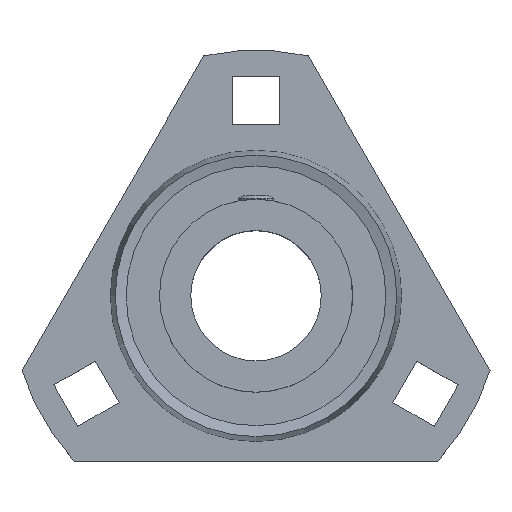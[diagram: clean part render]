
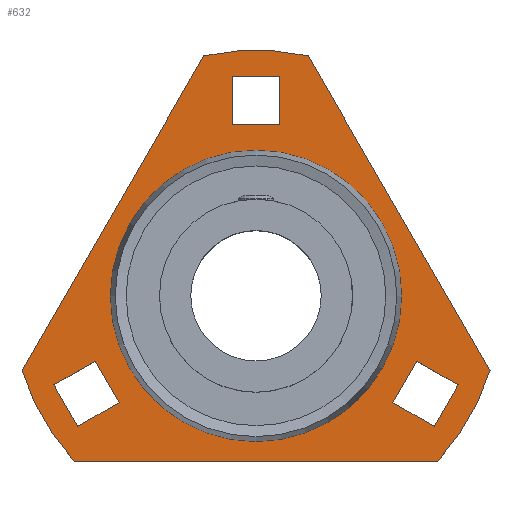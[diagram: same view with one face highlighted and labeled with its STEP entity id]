
A CAD part, top view. The second image highlights one B-rep face of the part: STEP entity #632.
In plain terms, the highlighted planar face has unit normal (0, 0, 1).
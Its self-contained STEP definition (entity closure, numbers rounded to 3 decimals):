
#122=CARTESIAN_POINT('',(-53.815,-17.21,2.6));
#123=VERTEX_POINT('',#122);
#130=CARTESIAN_POINT('',(-12.003,55.21,2.6));
#131=VERTEX_POINT('',#130);
#132=CARTESIAN_POINT('',(-53.815,-17.21,2.6));
#133=DIRECTION('',(0.5,0.866,0.0));
#134=VECTOR('',#133,83.624);
#135=LINE('',#132,#134);
#136=EDGE_CURVE('',#123,#131,#135,.T.);
#162=CARTESIAN_POINT('',(12.003,55.21,2.6));
#163=VERTEX_POINT('',#162);
#170=CARTESIAN_POINT('',(53.815,-17.21,2.6));
#171=VERTEX_POINT('',#170);
#172=CARTESIAN_POINT('',(12.003,55.21,2.6));
#173=DIRECTION('',(0.5,-0.866,0.0));
#174=VECTOR('',#173,83.624);
#175=LINE('',#172,#174);
#176=EDGE_CURVE('',#163,#171,#175,.T.);
#202=CARTESIAN_POINT('',(41.812,-38.0,2.6));
#203=VERTEX_POINT('',#202);
#210=CARTESIAN_POINT('',(-41.812,-38.0,2.6));
#211=VERTEX_POINT('',#210);
#212=CARTESIAN_POINT('',(41.812,-38.0,2.6));
#213=DIRECTION('',(-1.0,0.0,0.0));
#214=VECTOR('',#213,83.624);
#215=LINE('',#212,#214);
#216=EDGE_CURVE('',#203,#211,#215,.T.);
#378=CARTESIAN_POINT('',(0.0,0.0,2.6));
#379=DIRECTION('',(0.0,0.0,-1.0));
#380=DIRECTION('',(-1.0,0.0,0.0));
#381=AXIS2_PLACEMENT_3D('',#378,#379,#380);
#382=CIRCLE('',#381,56.5);
#383=EDGE_CURVE('',#211,#123,#382,.T.);
#396=CARTESIAN_POINT('',(0.0,0.0,2.6));
#397=DIRECTION('',(0.0,0.0,-1.0));
#398=DIRECTION('',(-1.0,0.0,0.0));
#399=AXIS2_PLACEMENT_3D('',#396,#397,#398);
#400=CIRCLE('',#399,56.5);
#401=EDGE_CURVE('',#171,#203,#400,.T.);
#493=CARTESIAN_POINT('',(0.0,33.5,2.6));
#494=VERTEX_POINT('',#493);
#495=CARTESIAN_POINT('',(0.0,0.0,2.6));
#496=DIRECTION('',(0.0,0.0,-1.0));
#497=DIRECTION('',(0.0,1.0,0.0));
#498=AXIS2_PLACEMENT_3D('',#495,#496,#497);
#499=CIRCLE('',#498,33.5);
#500=EDGE_CURVE('',#494,#494,#499,.T.);
#508=CARTESIAN_POINT('',(0.0,0.0,2.6));
#509=DIRECTION('',(0.0,0.0,-1.0));
#510=DIRECTION('',(-1.0,0.0,0.0));
#511=AXIS2_PLACEMENT_3D('',#508,#509,#510);
#512=PLANE('',#511);
#513=ORIENTED_EDGE('',*,*,#176,.F.);
#514=CARTESIAN_POINT('',(0.0,0.0,2.6));
#515=DIRECTION('',(0.0,0.0,-1.0));
#516=DIRECTION('',(-1.0,0.0,0.0));
#517=AXIS2_PLACEMENT_3D('',#514,#515,#516);
#518=CIRCLE('',#517,56.5);
#519=EDGE_CURVE('',#131,#163,#518,.T.);
#520=ORIENTED_EDGE('',*,*,#519,.F.);
#521=ORIENTED_EDGE('',*,*,#136,.F.);
#522=ORIENTED_EDGE('',*,*,#383,.F.);
#523=ORIENTED_EDGE('',*,*,#216,.F.);
#524=ORIENTED_EDGE('',*,*,#401,.F.);
#525=EDGE_LOOP('',(#513,#520,#521,#522,#523,#524));
#526=FACE_OUTER_BOUND('',#525,.T.);
#527=CARTESIAN_POINT('',(5.5,50.5,2.6));
#528=VERTEX_POINT('',#527);
#529=CARTESIAN_POINT('',(5.5,39.5,2.6));
#530=VERTEX_POINT('',#529);
#531=CARTESIAN_POINT('',(5.5,50.5,2.6));
#532=DIRECTION('',(0.0,-1.0,0.0));
#533=VECTOR('',#532,11.);
#534=LINE('',#531,#533);
#535=EDGE_CURVE('',#528,#530,#534,.T.);
#536=ORIENTED_EDGE('',*,*,#535,.T.);
#537=CARTESIAN_POINT('',(-5.5,39.5,2.6));
#538=VERTEX_POINT('',#537);
#539=CARTESIAN_POINT('',(5.5,39.5,2.6));
#540=DIRECTION('',(-1.0,0.0,0.0));
#541=VECTOR('',#540,11.0);
#542=LINE('',#539,#541);
#543=EDGE_CURVE('',#530,#538,#542,.T.);
#544=ORIENTED_EDGE('',*,*,#543,.T.);
#545=CARTESIAN_POINT('',(-5.5,50.5,2.6));
#546=VERTEX_POINT('',#545);
#547=CARTESIAN_POINT('',(-5.5,39.5,2.6));
#548=DIRECTION('',(0.0,1.0,0.0));
#549=VECTOR('',#548,11.);
#550=LINE('',#547,#549);
#551=EDGE_CURVE('',#538,#546,#550,.T.);
#552=ORIENTED_EDGE('',*,*,#551,.T.);
#553=CARTESIAN_POINT('',(-5.5,50.5,2.6));
#554=DIRECTION('',(1.0,0.0,0.0));
#555=VECTOR('',#554,11.0);
#556=LINE('',#553,#555);
#557=EDGE_CURVE('',#546,#528,#556,.T.);
#558=ORIENTED_EDGE('',*,*,#557,.T.);
#559=EDGE_LOOP('',(#536,#544,#552,#558));
#560=FACE_BOUND('',#559,.T.);
#561=CARTESIAN_POINT('',(-46.484,-20.487,2.6));
#562=VERTEX_POINT('',#561);
#563=CARTESIAN_POINT('',(-36.958,-14.987,2.6));
#564=VERTEX_POINT('',#563);
#565=CARTESIAN_POINT('',(-46.484,-20.487,2.6));
#566=DIRECTION('',(0.866,0.5,0.0));
#567=VECTOR('',#566,11.);
#568=LINE('',#565,#567);
#569=EDGE_CURVE('',#562,#564,#568,.T.);
#570=ORIENTED_EDGE('',*,*,#569,.T.);
#571=CARTESIAN_POINT('',(-31.458,-24.513,2.6));
#572=VERTEX_POINT('',#571);
#573=CARTESIAN_POINT('',(-36.958,-14.987,2.6));
#574=DIRECTION('',(0.5,-0.866,0.0));
#575=VECTOR('',#574,11.);
#576=LINE('',#573,#575);
#577=EDGE_CURVE('',#564,#572,#576,.T.);
#578=ORIENTED_EDGE('',*,*,#577,.T.);
#579=CARTESIAN_POINT('',(-40.984,-30.013,2.6));
#580=VERTEX_POINT('',#579);
#581=CARTESIAN_POINT('',(-31.458,-24.513,2.6));
#582=DIRECTION('',(-0.866,-0.5,0.0));
#583=VECTOR('',#582,11.);
#584=LINE('',#581,#583);
#585=EDGE_CURVE('',#572,#580,#584,.T.);
#586=ORIENTED_EDGE('',*,*,#585,.T.);
#587=CARTESIAN_POINT('',(-40.984,-30.013,2.6));
#588=DIRECTION('',(-0.5,0.866,0.0));
#589=VECTOR('',#588,11.);
#590=LINE('',#587,#589);
#591=EDGE_CURVE('',#580,#562,#590,.T.);
#592=ORIENTED_EDGE('',*,*,#591,.T.);
#593=EDGE_LOOP('',(#570,#578,#586,#592));
#594=FACE_BOUND('',#593,.T.);
#595=CARTESIAN_POINT('',(40.984,-30.013,2.6));
#596=VERTEX_POINT('',#595);
#597=CARTESIAN_POINT('',(31.458,-24.513,2.6));
#598=VERTEX_POINT('',#597);
#599=CARTESIAN_POINT('',(40.984,-30.013,2.6));
#600=DIRECTION('',(-0.866,0.5,0.0));
#601=VECTOR('',#600,11.);
#602=LINE('',#599,#601);
#603=EDGE_CURVE('',#596,#598,#602,.T.);
#604=ORIENTED_EDGE('',*,*,#603,.T.);
#605=CARTESIAN_POINT('',(36.958,-14.987,2.6));
#606=VERTEX_POINT('',#605);
#607=CARTESIAN_POINT('',(31.458,-24.513,2.6));
#608=DIRECTION('',(0.5,0.866,0.0));
#609=VECTOR('',#608,11.);
#610=LINE('',#607,#609);
#611=EDGE_CURVE('',#598,#606,#610,.T.);
#612=ORIENTED_EDGE('',*,*,#611,.T.);
#613=CARTESIAN_POINT('',(46.484,-20.487,2.6));
#614=VERTEX_POINT('',#613);
#615=CARTESIAN_POINT('',(36.958,-14.987,2.6));
#616=DIRECTION('',(0.866,-0.5,0.0));
#617=VECTOR('',#616,11.);
#618=LINE('',#615,#617);
#619=EDGE_CURVE('',#606,#614,#618,.T.);
#620=ORIENTED_EDGE('',*,*,#619,.T.);
#621=CARTESIAN_POINT('',(46.484,-20.487,2.6));
#622=DIRECTION('',(-0.5,-0.866,0.0));
#623=VECTOR('',#622,11.);
#624=LINE('',#621,#623);
#625=EDGE_CURVE('',#614,#596,#624,.T.);
#626=ORIENTED_EDGE('',*,*,#625,.T.);
#627=EDGE_LOOP('',(#604,#612,#620,#626));
#628=FACE_BOUND('',#627,.T.);
#629=ORIENTED_EDGE('',*,*,#500,.T.);
#630=EDGE_LOOP('',(#629));
#631=FACE_BOUND('',#630,.T.);
#632=ADVANCED_FACE('',(#526,#560,#594,#628,#631),#512,.F.);
